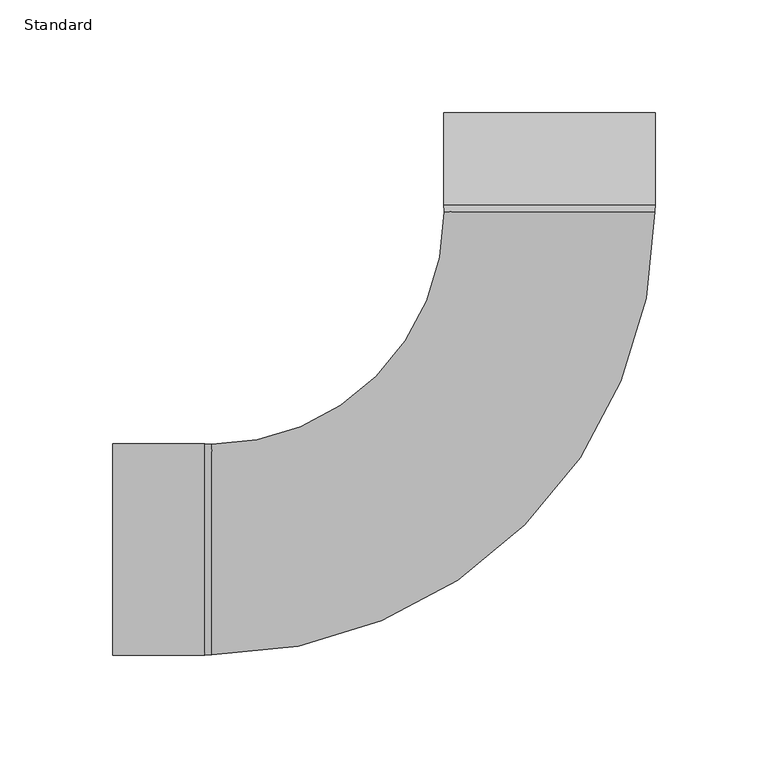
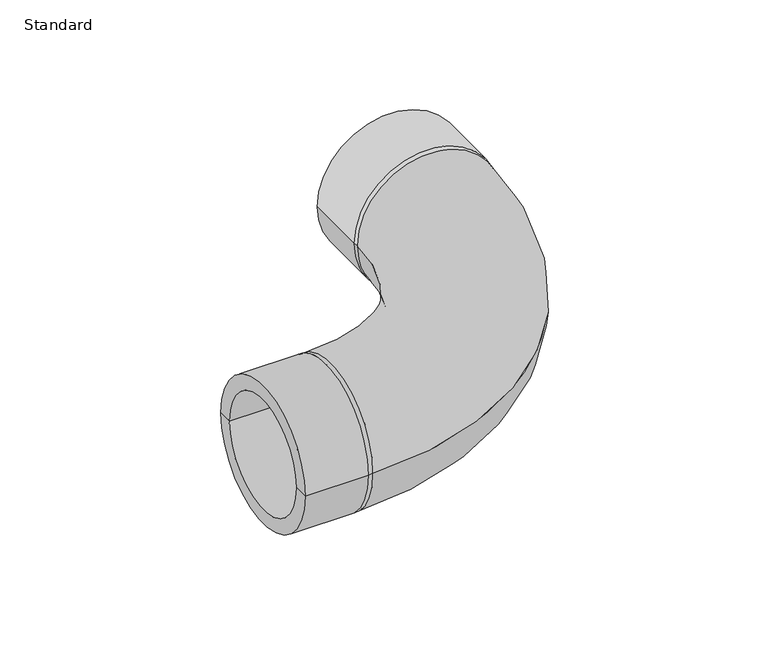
"""IFC4 building model written with IfcOpenShell, lengths in millimetres: pipe fitting geometry, Durapipe_PipeFitting_PVC_SR_Bend90deg : Standard."""

from ifc_helpers import new_model, si_unit, point, frame, origin, place, context, project, spatial, polyline, circle_curve, ellipse_curve, trimmed, source, transform, mapped, element, save
from ifc_brep_helpers import plane_surface, cylinder_surface, revolved_surface, advanced_brep


def standard_6b6b4002(model_context):
    return source(origin(), model_context, "Body", "AdvancedBrep", [
        advanced_brep(
        [(47.0, 153.0, 0.0), (-47.0, 153.0, 0.0), (-47.0, 194.0, 0.0), (47.0, 194.0, 0.0), (46.7, 150.0, 0.0), (-46.7, 150.0, 0.0), (-37.5, 194.0, 0.0), (37.5, 194.0, 0.0), (-150.0, 46.7, 0.0), (-150.0, -46.7, 0.0), (-194.0, -37.5, 0.0), (-194.0, 37.5, 0.0), (-194.0, 47.0, 0.0), (-194.0, -47.0, 0.0), (-153.0, -47.0, 0.0), (-153.0, 47.0, 0.0), (-153.0, -37.5, 0.0), (-153.0, 37.5, 0.0), (-153.0, 0.0, 0.0), (37.5, 153.0, 0.0), (-37.5, 153.0, 0.0), (0.0, 153.0, 0.0)],
        [
            (0, 1, circle_curve(frame((0.0, 153.0, 0.0), z_axis=(0.0, 1.0, 0.0), x_axis=(-1.0, 0.0, 0.0)), 47.0)),
            (1, 2),
            (2, 3, circle_curve(frame((0.0, 194.0, 0.0), z_axis=(0.0, -1.0, 0.0), x_axis=(-1.0, 0.0, 0.0)), 47.0)),
            (3, 0),
            (1, 0, circle_curve(frame((0.0, 153.0, 0.0), z_axis=(0.0, 1.0, 0.0), x_axis=(-1.0, 0.0, 0.0)), 47.0)),
            (3, 2, circle_curve(frame((0.0, 194.0, 0.0), z_axis=(0.0, -1.0, 0.0), x_axis=(-1.0, 0.0, 0.0)), 47.0)),
            (0, 4),
            (4, 5, circle_curve(frame((0.0, 150.0, 0.0), z_axis=(0.0, 1.0, 0.0), x_axis=(-1.0, 0.0, 0.0)), 46.7)),
            (5, 1),
            (5, 4, circle_curve(frame((0.0, 150.0, 0.0), z_axis=(0.0, 1.0, 0.0), x_axis=(-1.0, 0.0, 0.0)), 46.7)),
            (2, 6),
            (6, 7, circle_curve(frame((0.0, 194.0, 0.0), z_axis=(0.0, -1.0, 0.0), x_axis=(-1.0, 0.0, 0.0)), 37.5)),
            (7, 3),
            (7, 6, circle_curve(frame((0.0, 194.0, 0.0), z_axis=(0.0, -1.0, 0.0), x_axis=(-1.0, 0.0, 0.0)), 37.5)),
            (5, 8, circle_curve(frame((-150.0, 150.0, 0.0), z_axis=(0.0, 0.0, -1.0), x_axis=(0.0, -1.0, 0.0)), 103.3)),
            (8, 9, circle_curve(frame((-150.0, 0.0, 0.0), z_axis=(1.0, 0.0, 0.0), x_axis=(0.0, 1.0, 0.0)), 46.7)),
            (9, 4, circle_curve(frame((-150.0, 150.0, 0.0), z_axis=(0.0, 0.0, 1.0), x_axis=(0.0, -1.0, 0.0)), 196.7)),
            (9, 8, circle_curve(frame((-150.0, 0.0, 0.0), z_axis=(1.0, 0.0, 0.0), x_axis=(0.0, 1.0, 0.0)), 46.7)),
            (10, 11, circle_curve(frame((-194.0, 0.0, 0.0), z_axis=(1.0, 0.0, 0.0), x_axis=(0.0, 1.0, 0.0)), 37.5)),
            (11, 12),
            (12, 13, circle_curve(frame((-194.0, 0.0, 0.0), z_axis=(-1.0, 0.0, 0.0), x_axis=(0.0, 1.0, 0.0)), 47.0)),
            (13, 10),
            (11, 10, circle_curve(frame((-194.0, 0.0, 0.0), z_axis=(1.0, 0.0, 0.0), x_axis=(0.0, 1.0, 0.0)), 37.5)),
            (13, 12, circle_curve(frame((-194.0, 0.0, 0.0), z_axis=(-1.0, 0.0, 0.0), x_axis=(0.0, 1.0, 0.0)), 47.0)),
            (14, 15, circle_curve(frame((-153.0, 0.0, 0.0), z_axis=(1.0, 0.0, 0.0), x_axis=(0.0, 1.0, 0.0)), 47.0)),
            (15, 8),
            (9, 14),
            (15, 14, circle_curve(frame((-153.0, 0.0, 0.0), z_axis=(1.0, 0.0, 0.0), x_axis=(0.0, 1.0, 0.0)), 47.0)),
            (12, 15),
            (14, 13),
            (10, 16),
            (16, 17, circle_curve(frame((-153.0, 0.0, 0.0), z_axis=(1.0, 0.0, 0.0), x_axis=(0.0, 1.0, 0.0)), 37.5)),
            (17, 11),
            (17, 16, circle_curve(frame((-153.0, 0.0, 0.0), z_axis=(1.0, 0.0, 0.0), x_axis=(0.0, 1.0, 0.0)), 37.5)),
            (16, 18),
            (18, 17),
            (19, 20, circle_curve(frame((0.0, 153.0, 0.0), z_axis=(0.0, 1.0, 0.0), x_axis=(-1.0, 0.0, 0.0)), 37.5)),
            (20, 21),
            (21, 19),
            (20, 19, circle_curve(frame((0.0, 153.0, 0.0), z_axis=(0.0, 1.0, 0.0), x_axis=(-1.0, 0.0, 0.0)), 37.5)),
            (6, 20),
            (19, 7),
        ],
        [
            cylinder_surface(frame((0.0, 2137.0, 0.0), z_axis=(0.0, -1.0, 0.0), x_axis=(-1.0, 0.0, 0.0)), 47.0),
            revolved_surface(polyline([(-47.0, 153.0, 0.0), (-46.7, 150.0, 0.0)]), (0.0, 2137.0, 0.0), (0.0, -1.0, 0.0)),
            plane_surface(frame((0.0, 194.0, 0.0), z_axis=(0.0, 1.0, 0.0), x_axis=(-1.0, 0.0, 0.0))),
            revolved_surface(trimmed(ellipse_curve(frame((-150.0, 0.0, 0.0), z_axis=(-1.0, 0.0, 0.0), x_axis=(0.0, 1.0, 0.0)), 46.7, 46.7), [point((-150.0, -46.7, 0.0))], [point((-150.0, 46.7, 0.0))], True, "CARTESIAN"), (-150.0, 150.0, 0.0), (0.0, 0.0, 1.0)),
            revolved_surface(trimmed(ellipse_curve(frame((-150.0, 0.0, 0.0), z_axis=(-1.0, 0.0, 0.0), x_axis=(0.0, 1.0, 0.0)), 46.7, 46.7), [point((-150.0, 46.7, 0.0))], [point((-150.0, -46.7, 0.0))], True, "CARTESIAN"), (-150.0, 150.0, 0.0), (0.0, 0.0, 1.0)),
            plane_surface(frame((-194.0, 0.0, 0.0), z_axis=(-1.0, 0.0, 0.0), x_axis=(0.0, 1.0, 0.0))),
            revolved_surface(polyline([(-150.0, 46.7, 0.0), (-153.0, 47.0, 0.0)]), (2034.0, 0.0, 0.0), (-1.0, 0.0, 0.0)),
            cylinder_surface(frame((2034.0, 0.0, 0.0), z_axis=(-1.0, 0.0, 0.0), x_axis=(0.0, 1.0, 0.0)), 47.0),
            revolved_surface(polyline([(-194.0, 37.5, 0.0), (-153.0, 37.5, 0.0)]), (2034.0, 0.0, 0.0), (-1.0, 0.0, 0.0)),
            plane_surface(frame((-153.0, 0.0, 0.0), z_axis=(-1.0, 0.0, 0.0), x_axis=(0.0, 1.0, 0.0))),
            plane_surface(frame((0.0, 153.0, 0.0), z_axis=(0.0, 1.0, 0.0), x_axis=(-1.0, 0.0, 0.0))),
            revolved_surface(polyline([(-37.5, 153.0, 0.0), (-37.5, 194.0, 0.0)]), (0.0, 2137.0, 0.0), (0.0, -1.0, 0.0)),
        ],
        [
            (0, [[1, 2, 3, 4]]),
            (0, [[-2, 5, -4, 6]]),
            (1, [[-1, 7, 8, 9]]),
            (1, [[-5, -9, 10, -7]]),
            (2, [[-3, 11, 12, 13]]),
            (2, [[-6, -13, 14, -11]]),
            (3, [[15, 16, 17, -10]]),
            (4, [[-15, -8, -17, 18]]),
            (5, [[19, 20, 21, 22]]),
            (5, [[-20, 23, -22, 24]]),
            (6, [[25, 26, -18, 27]]),
            (6, [[-26, 28, -27, -16]]),
            (7, [[-21, 29, -25, 30]]),
            (7, [[-24, -30, -28, -29]]),
            (8, [[-19, 31, 32, 33]]),
            (8, [[-23, -33, 34, -31]]),
            (9, [[-32, 35, 36]]),
            (9, [[-34, -36, -35]]),
            (10, [[37, 38, 39]]),
            (10, [[-38, 40, -39]]),
            (11, [[-12, 41, -37, 42]]),
            (11, [[-14, -42, -40, -41]]),
        ],
    ),
    ])


if __name__ == "__main__":
    model = new_model("IFC4")
    model_context = context("Model", 3, world=origin())
    ifc_project = project(units=[si_unit("LENGTHUNIT", "METRE", prefix="MILLI")], contexts=[model_context])
    site = spatial("IfcSite", under=ifc_project)
    building = spatial("IfcBuilding", under=site)
    placement = place(None, origin())
    standard_shape = standard_6b6b4002(model_context)
    element("IfcPipeFitting", 1, ObjectType="Durapipe_PipeFitting_PVC_SR_Bend90deg : Standard", at=placement, inside=building, context=model_context, shape_type="MappedRepresentation", body=[
        mapped(standard_shape, transform((0.0, 0.0, 0.0), x_axis=(1.0, 0.0, 0.0), y_axis=(0.0, 1.0, 0.0), z_axis=(0.0, 0.0, 1.0))),
    ])
    save(model, "model.ifc")
